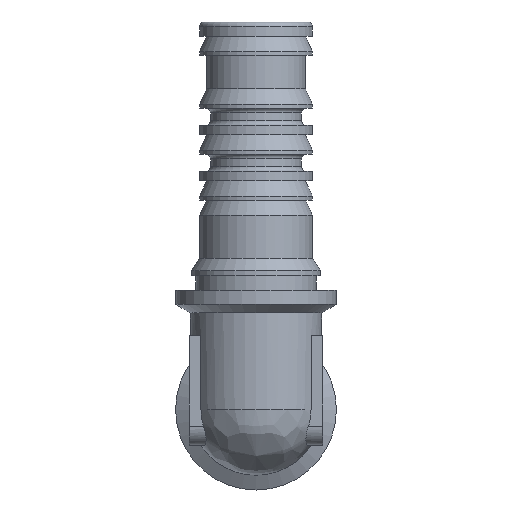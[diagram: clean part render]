
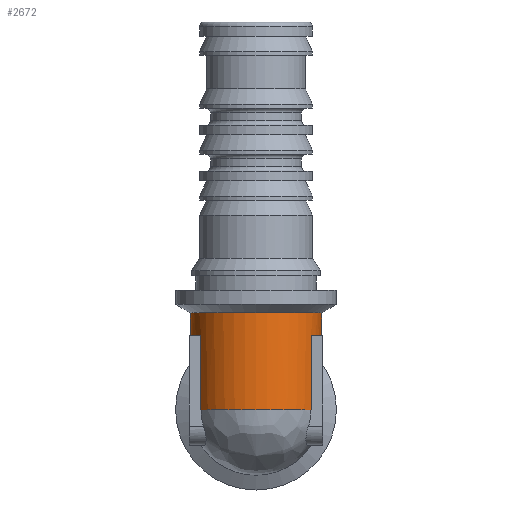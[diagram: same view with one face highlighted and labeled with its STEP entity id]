
A CAD part, front view. The second image highlights one B-rep face of the part: STEP entity #2672.
In plain terms, the highlighted cylindrical face has radius 6.85 mm (diameter 13.7 mm), a full revolution.
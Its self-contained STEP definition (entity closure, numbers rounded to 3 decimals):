
#310=FACE_OUTER_BOUND('',#472,.T.);
#472=EDGE_LOOP('',(#2482,#2483,#2484,#2485,#2486,#2487,#2488,#2489,#2490,
#2491,#2492,#2493,#2494,#2495));
#479=ELLIPSE('',#2962,9.687,6.85);
#633=LINE('',#4821,#811);
#636=LINE('',#4826,#814);
#639=LINE('',#4831,#817);
#656=LINE('',#4868,#834);
#657=LINE('',#4871,#835);
#811=VECTOR('',#3786,10.);
#814=VECTOR('',#3791,10.);
#817=VECTOR('',#3796,10.);
#834=VECTOR('',#3837,10.);
#835=VECTOR('',#3842,6.85);
#927=CIRCLE('',#2826,6.85);
#928=CIRCLE('',#2827,6.85);
#929=CIRCLE('',#2828,6.85);
#1016=CIRCLE('',#2955,6.85);
#1022=CIRCLE('',#2996,6.85);
#1023=CIRCLE('',#2998,6.85);
#1024=CIRCLE('',#2999,6.85);
#1115=VERTEX_POINT('',#4090);
#1116=VERTEX_POINT('',#4092);
#1117=VERTEX_POINT('',#4094);
#1207=VERTEX_POINT('',#4444);
#1208=VERTEX_POINT('',#4449);
#1209=VERTEX_POINT('',#4456);
#1217=VERTEX_POINT('',#4473);
#1290=VERTEX_POINT('',#4801);
#1291=VERTEX_POINT('',#4802);
#1294=VERTEX_POINT('',#4810);
#1295=VERTEX_POINT('',#4811);
#1298=VERTEX_POINT('',#4817);
#1426=EDGE_CURVE('',#1116,#1115,#927,.T.);
#1427=EDGE_CURVE('',#1117,#1116,#928,.T.);
#1428=EDGE_CURVE('',#1115,#1117,#929,.T.);
#1550=EDGE_CURVE('',#1208,#1207,#1016,.T.);
#1562=EDGE_CURVE('',#1217,#1209,#479,.T.);
#1671=EDGE_CURVE('',#1290,#1291,#1022,.T.);
#1675=EDGE_CURVE('',#1294,#1295,#1023,.T.);
#1679=EDGE_CURVE('',#1295,#1298,#1024,.T.);
#1680=EDGE_CURVE('',#1217,#1290,#633,.T.);
#1683=EDGE_CURVE('',#1207,#1294,#636,.T.);
#1686=EDGE_CURVE('',#1291,#1208,#639,.T.);
#1705=EDGE_CURVE('',#1298,#1209,#656,.T.);
#1706=EDGE_CURVE('',#1117,#1295,#657,.T.);
#2482=ORIENTED_EDGE('',*,*,#1426,.T.);
#2483=ORIENTED_EDGE('',*,*,#1428,.T.);
#2484=ORIENTED_EDGE('',*,*,#1706,.T.);
#2485=ORIENTED_EDGE('',*,*,#1679,.T.);
#2486=ORIENTED_EDGE('',*,*,#1705,.T.);
#2487=ORIENTED_EDGE('',*,*,#1562,.F.);
#2488=ORIENTED_EDGE('',*,*,#1680,.T.);
#2489=ORIENTED_EDGE('',*,*,#1671,.T.);
#2490=ORIENTED_EDGE('',*,*,#1686,.T.);
#2491=ORIENTED_EDGE('',*,*,#1550,.T.);
#2492=ORIENTED_EDGE('',*,*,#1683,.T.);
#2493=ORIENTED_EDGE('',*,*,#1675,.T.);
#2494=ORIENTED_EDGE('',*,*,#1706,.F.);
#2495=ORIENTED_EDGE('',*,*,#1427,.T.);
#2534=CYLINDRICAL_SURFACE('',#3016,6.85);
#2672=ADVANCED_FACE('',(#310),#2534,.T.);
#2826=AXIS2_PLACEMENT_3D('',#4093,#3307,#3308);
#2827=AXIS2_PLACEMENT_3D('',#4095,#3309,#3310);
#2828=AXIS2_PLACEMENT_3D('',#4096,#3311,#3312);
#2955=AXIS2_PLACEMENT_3D('',#4450,#3591,#3592);
#2962=AXIS2_PLACEMENT_3D('',#4475,#3610,#3611);
#2996=AXIS2_PLACEMENT_3D('',#4803,#3770,#3771);
#2998=AXIS2_PLACEMENT_3D('',#4812,#3777,#3778);
#2999=AXIS2_PLACEMENT_3D('',#4819,#3782,#3783);
#3016=AXIS2_PLACEMENT_3D('',#4870,#3840,#3841);
#3307=DIRECTION('center_axis',(0.,0.,-1.));
#3308=DIRECTION('ref_axis',(-1.,0.,0.));
#3309=DIRECTION('center_axis',(0.,0.,-1.));
#3310=DIRECTION('ref_axis',(-1.,0.,0.));
#3311=DIRECTION('center_axis',(0.,0.,-1.));
#3312=DIRECTION('ref_axis',(-1.,0.,0.));
#3591=DIRECTION('center_axis',(0.,0.,1.));
#3592=DIRECTION('ref_axis',(-1.,0.,0.));
#3610=DIRECTION('center_axis',(0.,0.707,-0.707));
#3611=DIRECTION('ref_axis',(0.,-0.707,-0.707));
#3770=DIRECTION('center_axis',(0.,0.,1.));
#3771=DIRECTION('ref_axis',(-1.,0.,0.));
#3777=DIRECTION('center_axis',(0.,0.,1.));
#3778=DIRECTION('ref_axis',(-1.,0.,0.));
#3782=DIRECTION('center_axis',(0.,0.,1.));
#3783=DIRECTION('ref_axis',(-1.,0.,0.));
#3786=DIRECTION('',(0.,0.,1.));
#3791=DIRECTION('',(0.,0.,1.));
#3796=DIRECTION('',(0.,0.,-1.));
#3837=DIRECTION('',(0.,0.,-1.));
#3840=DIRECTION('center_axis',(0.,0.,1.));
#3841=DIRECTION('ref_axis',(-1.,0.,0.));
#3842=DIRECTION('',(0.,0.,-1.));
#4090=CARTESIAN_POINT('',(0.,-33.65,10.105));
#4092=CARTESIAN_POINT('',(0.,-47.35,10.105));
#4093=CARTESIAN_POINT('Origin',(0.,-40.5,10.105));
#4094=CARTESIAN_POINT('',(6.85,-40.5,10.105));
#4095=CARTESIAN_POINT('Origin',(0.,-40.5,10.105));
#4096=CARTESIAN_POINT('Origin',(0.,-40.5,10.105));
#4444=CARTESIAN_POINT('',(5.75,-44.222,0.));
#4449=CARTESIAN_POINT('',(-5.75,-44.222,0.));
#4450=CARTESIAN_POINT('Origin',(0.,-40.5,0.));
#4456=CARTESIAN_POINT('',(5.714,-36.722,3.778));
#4473=CARTESIAN_POINT('',(-5.714,-36.722,3.778));
#4475=CARTESIAN_POINT('Origin',(0.,-40.5,0.));
#4801=CARTESIAN_POINT('',(-5.714,-36.722,7.764));
#4802=CARTESIAN_POINT('',(-5.75,-44.222,7.764));
#4803=CARTESIAN_POINT('Origin',(0.,-40.5,7.764));
#4810=CARTESIAN_POINT('',(5.75,-44.222,7.764));
#4811=CARTESIAN_POINT('',(6.85,-40.5,7.764));
#4812=CARTESIAN_POINT('Origin',(0.,-40.5,7.764));
#4817=CARTESIAN_POINT('',(5.714,-36.722,7.764));
#4819=CARTESIAN_POINT('Origin',(0.,-40.5,7.764));
#4821=CARTESIAN_POINT('',(-5.714,-36.722,0.));
#4826=CARTESIAN_POINT('',(5.75,-44.222,0.));
#4831=CARTESIAN_POINT('',(-5.75,-44.222,0.));
#4868=CARTESIAN_POINT('',(5.714,-36.722,0.));
#4870=CARTESIAN_POINT('Origin',(0.,-40.5,0.));
#4871=CARTESIAN_POINT('',(6.85,-40.5,0.));
